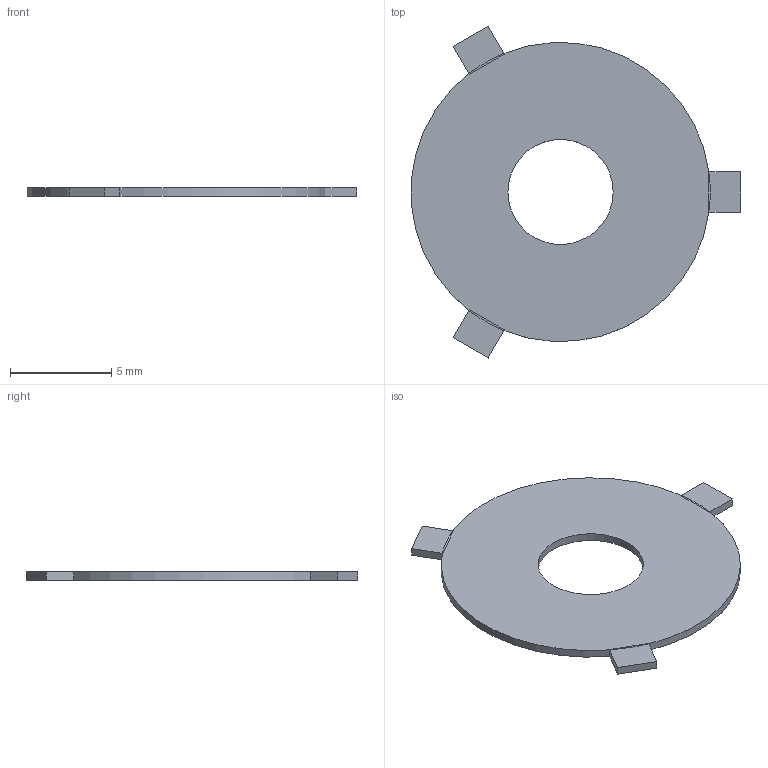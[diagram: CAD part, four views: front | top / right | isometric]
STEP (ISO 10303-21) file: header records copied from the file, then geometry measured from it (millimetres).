
FILE_DESCRIPTION(('Open CASCADE Model'),'2;1');
FILE_NAME('Open CASCADE Shape Model','2026-09-24T19:46:42',('Author'),( 'Open CASCADE'),'Open CASCADE STEP processor 7.8','Open CASCADE 7.8' ,'Unknown');
FILE_SCHEMA(('AUTOMOTIVE_DESIGN { 1 0 10303 214 1 1 1 1 }'));
Length unit declared in the file: millimetre
Products named in the file (1): Open CASCADE STEP translator 7.8 3
Bounding box: 16.27 x 16.42 x 0.4 mm (x, y, z)
Volume: 64 mm3; surface area: 348.8 mm2
Topology: 1 solids, 1 shells, 27 faces, 65 edges, 40 vertices
Faces by surface type: plane 23, cylinder 4
Full cylindrical faces by diameter (mm): 5.2 x1
Entity records: 1622 total; most frequent: CARTESIAN_POINT 275, DIRECTION 255, LINE 143, VECTOR 143, ORIENTED_EDGE 130, PCURVE 130, DEFINITIONAL_REPRESENTATION 130, EDGE_CURVE 65
